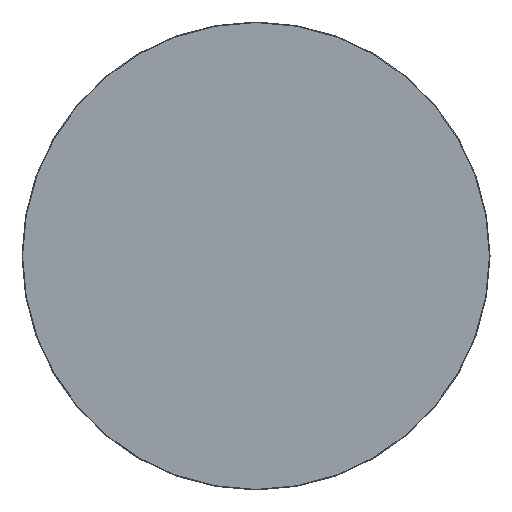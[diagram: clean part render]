
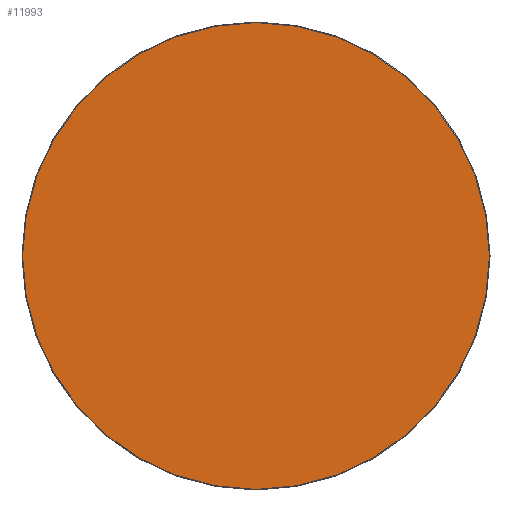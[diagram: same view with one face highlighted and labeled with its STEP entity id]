
A CAD part, top view. The second image highlights one B-rep face of the part: STEP entity #11993.
In plain terms, the highlighted planar face has unit normal (0, 0, 1).
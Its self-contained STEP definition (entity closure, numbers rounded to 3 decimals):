
#11918=CARTESIAN_POINT('',(0.,0.,20.));
#11919=DIRECTION('',(1.,0.,0.));
#11920=DIRECTION('',(0.,0.,1.));
#11921=AXIS2_PLACEMENT_3D('',#11918,#11920,#11919);
#11922=PLANE('',#11921);
#11923=CARTESIAN_POINT('',(-0.5,-548.5,20.));
#11924=VERTEX_POINT('',#11923);
#11925=CARTESIAN_POINT('',(0.5,-548.5,20.));
#11926=VERTEX_POINT('',#11925);
#11927=CARTESIAN_POINT('',(-0.5,-548.5,20.));
#11928=DIRECTION('',(1.,0.,0.));
#11929=VECTOR('',#11928,1.);
#11930=LINE('',#11927,#11929);
#11931=EDGE_CURVE('',#11924,#11926,#11930,.T.);
#11932=ORIENTED_EDGE('E105',*,*,#11931,.T.);
#11933=CARTESIAN_POINT('',(548.5,-0.5,20.));
#11934=VERTEX_POINT('',#11933);
#11935=CARTESIAN_POINT('',(0.5,-0.5,20.));
#11936=DIRECTION('',(0.,-1.,0.));
#11937=DIRECTION('',(0.,0.,1.));
#11938=AXIS2_PLACEMENT_3D('',#11935,#11937,#11936);
#11939=CIRCLE('',#11938,548.);
#11940=EDGE_CURVE('',#11926,#11934,#11939,.T.);
#11941=ORIENTED_EDGE('E107',*,*,#11940,.T.);
#11942=CARTESIAN_POINT('',(548.5,0.5,20.));
#11943=VERTEX_POINT('',#11942);
#11944=CARTESIAN_POINT('',(548.5,-0.5,20.));
#11945=DIRECTION('',(0.,1.,0.));
#11946=VECTOR('',#11945,1.);
#11947=LINE('',#11944,#11946);
#11948=EDGE_CURVE('',#11934,#11943,#11947,.T.);
#11949=ORIENTED_EDGE('E109',*,*,#11948,.T.);
#11950=CARTESIAN_POINT('',(0.5,548.5,20.));
#11951=VERTEX_POINT('',#11950);
#11952=CARTESIAN_POINT('',(0.5,0.5,20.));
#11953=DIRECTION('',(1.,0.,0.));
#11954=DIRECTION('',(0.,0.,1.));
#11955=AXIS2_PLACEMENT_3D('',#11952,#11954,#11953);
#11956=CIRCLE('',#11955,548.);
#11957=EDGE_CURVE('',#11943,#11951,#11956,.T.);
#11958=ORIENTED_EDGE('E111',*,*,#11957,.T.);
#11959=CARTESIAN_POINT('',(-0.5,548.5,20.));
#11960=VERTEX_POINT('',#11959);
#11961=CARTESIAN_POINT('',(0.5,548.5,20.));
#11962=DIRECTION('',(-1.,0.,0.));
#11963=VECTOR('',#11962,1.);
#11964=LINE('',#11961,#11963);
#11965=EDGE_CURVE('',#11951,#11960,#11964,.T.);
#11966=ORIENTED_EDGE('E113',*,*,#11965,.T.);
#11967=CARTESIAN_POINT('',(-548.5,0.5,20.));
#11968=VERTEX_POINT('',#11967);
#11969=CARTESIAN_POINT('',(-0.5,0.5,20.));
#11970=DIRECTION('',(0.,1.,0.));
#11971=DIRECTION('',(0.,0.,1.));
#11972=AXIS2_PLACEMENT_3D('',#11969,#11971,#11970);
#11973=CIRCLE('',#11972,548.);
#11974=EDGE_CURVE('',#11960,#11968,#11973,.T.);
#11975=ORIENTED_EDGE('E115',*,*,#11974,.T.);
#11976=CARTESIAN_POINT('',(-548.5,-0.5,20.));
#11977=VERTEX_POINT('',#11976);
#11978=CARTESIAN_POINT('',(-548.5,0.5,20.));
#11979=DIRECTION('',(0.,-1.,0.));
#11980=VECTOR('',#11979,1.);
#11981=LINE('',#11978,#11980);
#11982=EDGE_CURVE('',#11968,#11977,#11981,.T.);
#11983=ORIENTED_EDGE('E117',*,*,#11982,.T.);
#11984=CARTESIAN_POINT('',(-0.5,-0.5,20.));
#11985=DIRECTION('',(-1.,0.,0.));
#11986=DIRECTION('',(0.,0.,1.));
#11987=AXIS2_PLACEMENT_3D('',#11984,#11986,#11985);
#11988=CIRCLE('',#11987,548.);
#11989=EDGE_CURVE('',#11977,#11924,#11988,.T.);
#11990=ORIENTED_EDGE('E119',*,*,#11989,.T.);
#11991=EDGE_LOOP('',(#11932,#11941,#11949,#11958,#11966,#11975,#11983,#11990));
#11992=FACE_OUTER_BOUND('',#11991,.T.);
#11993=ADVANCED_FACE('F2',(#11992),#11922,.T.);
